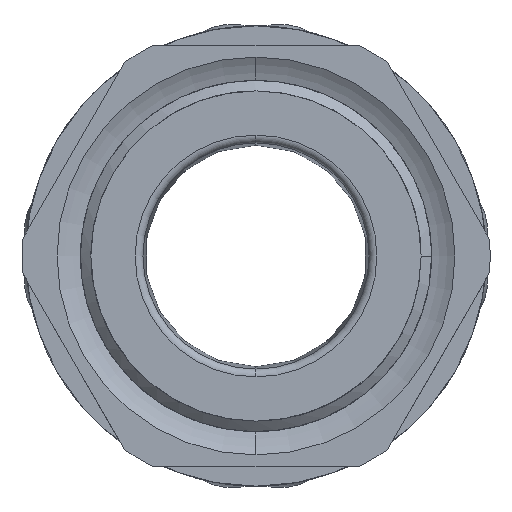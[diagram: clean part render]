
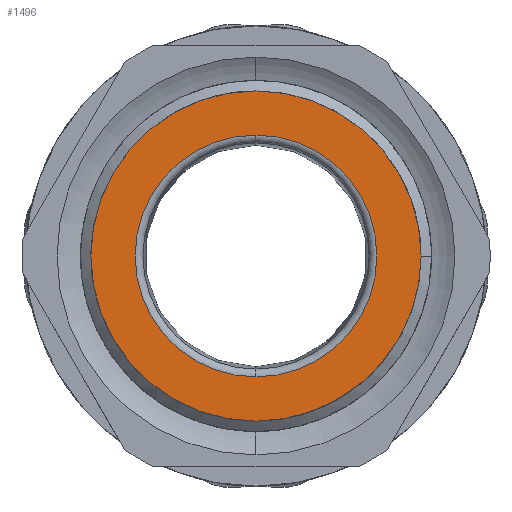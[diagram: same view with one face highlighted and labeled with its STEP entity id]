
A CAD part, front view. The second image highlights one B-rep face of the part: STEP entity #1496.
In plain terms, the highlighted planar face has unit normal (0, -1, 0).
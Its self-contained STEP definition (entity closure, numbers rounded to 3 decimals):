
#1496 = ADVANCED_FACE ( 'NONE', ( #12086, #19124 ), #11609, .T. ) ;
#1704 = DIRECTION ( 'NONE',  ( 0., -1., 0. ) ) ;
#1850 = EDGE_CURVE ( 'NONE', #14117, #5763, #10422, .T. ) ;
#2110 = EDGE_LOOP ( 'NONE', ( #27836, #5887 ) ) ;
#3105 = ORIENTED_EDGE ( 'NONE', *, *, #22804, .T. ) ;
#3369 = CARTESIAN_POINT ( 'NONE',  ( 0., 0., 10.58 ) ) ;
#3873 = DIRECTION ( 'NONE',  ( 0., -1., 0. ) ) ;
#4467 = CARTESIAN_POINT ( 'NONE',  ( 10.58, 0., 0. ) ) ;
#5586 = AXIS2_PLACEMENT_3D ( 'NONE', #9641, #15841, #16113 ) ;
#5763 = VERTEX_POINT ( 'NONE', #3369 ) ;
#5887 = ORIENTED_EDGE ( 'NONE', *, *, #24581, .F. ) ;
#6153 = CARTESIAN_POINT ( 'NONE',  ( 0., 0., 0. ) ) ;
#6405 = CARTESIAN_POINT ( 'NONE',  ( 0., 0., 0. ) ) ;
#6748 = ORIENTED_EDGE ( 'NONE', *, *, #1850, .T. ) ;
#7444 = AXIS2_PLACEMENT_3D ( 'NONE', #23049, #14479, #20789 ) ;
#8081 = AXIS2_PLACEMENT_3D ( 'NONE', #6153, #3873, #20945 ) ;
#9283 = CARTESIAN_POINT ( 'NONE',  ( 0., 0., 7.747 ) ) ;
#9641 = CARTESIAN_POINT ( 'NONE',  ( 7.747, 0., 0. ) ) ;
#9657 = CIRCLE ( 'NONE', #16142, 10.58 ) ;
#10371 = CIRCLE ( 'NONE', #27796, 10.58 ) ;
#10422 = CIRCLE ( 'NONE', #17326, 10.58 ) ;
#10571 = VERTEX_POINT ( 'NONE', #14982 ) ;
#10910 = DIRECTION ( 'NONE',  ( 0., 0., -1. ) ) ;
#11609 = PLANE ( 'NONE',  #5586 ) ;
#12086 = FACE_OUTER_BOUND ( 'NONE', #22467, .T. ) ;
#14117 = VERTEX_POINT ( 'NONE', #4467 ) ;
#14262 = CIRCLE ( 'NONE', #8081, 7.747 ) ;
#14479 = DIRECTION ( 'NONE',  ( 0., -1., 0. ) ) ;
#14726 = CARTESIAN_POINT ( 'NONE',  ( 0., 0., 0. ) ) ;
#14982 = CARTESIAN_POINT ( 'NONE',  ( 0., 0., -10.58 ) ) ;
#15841 = DIRECTION ( 'NONE',  ( 0., -1., 0. ) ) ;
#16113 = DIRECTION ( 'NONE',  ( 0., 0., -1. ) ) ;
#16142 = AXIS2_PLACEMENT_3D ( 'NONE', #6405, #21380, #25341 ) ;
#17326 = AXIS2_PLACEMENT_3D ( 'NONE', #14726, #1704, #22833 ) ;
#18157 = EDGE_CURVE ( 'NONE', #20790, #23490, #24523, .T. ) ;
#19124 = FACE_BOUND ( 'NONE', #2110, .T. ) ;
#20789 = DIRECTION ( 'NONE',  ( 0., 0., -1. ) ) ;
#20790 = VERTEX_POINT ( 'NONE', #23560 ) ;
#20945 = DIRECTION ( 'NONE',  ( 0., 0., -1. ) ) ;
#21380 = DIRECTION ( 'NONE',  ( 0., -1., 0. ) ) ;
#21391 = EDGE_CURVE ( 'NONE', #10571, #14117, #10371, .T. ) ;
#21820 = DIRECTION ( 'NONE',  ( 0., -1., 0. ) ) ;
#22467 = EDGE_LOOP ( 'NONE', ( #6748, #3105, #24465 ) ) ;
#22804 = EDGE_CURVE ( 'NONE', #5763, #10571, #9657, .T. ) ;
#22833 = DIRECTION ( 'NONE',  ( 0., 0., -1. ) ) ;
#23049 = CARTESIAN_POINT ( 'NONE',  ( 0., 0., 0. ) ) ;
#23490 = VERTEX_POINT ( 'NONE', #9283 ) ;
#23560 = CARTESIAN_POINT ( 'NONE',  ( 0., 0., -7.747 ) ) ;
#23712 = CARTESIAN_POINT ( 'NONE',  ( 0., 0., 0. ) ) ;
#24465 = ORIENTED_EDGE ( 'NONE', *, *, #21391, .T. ) ;
#24523 = CIRCLE ( 'NONE', #7444, 7.747 ) ;
#24581 = EDGE_CURVE ( 'NONE', #23490, #20790, #14262, .T. ) ;
#25341 = DIRECTION ( 'NONE',  ( 0., 0., -1. ) ) ;
#27796 = AXIS2_PLACEMENT_3D ( 'NONE', #23712, #21820, #10910 ) ;
#27836 = ORIENTED_EDGE ( 'NONE', *, *, #18157, .F. ) ;
